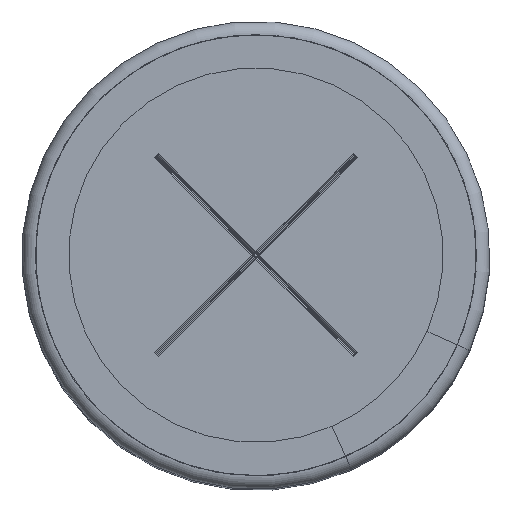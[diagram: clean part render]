
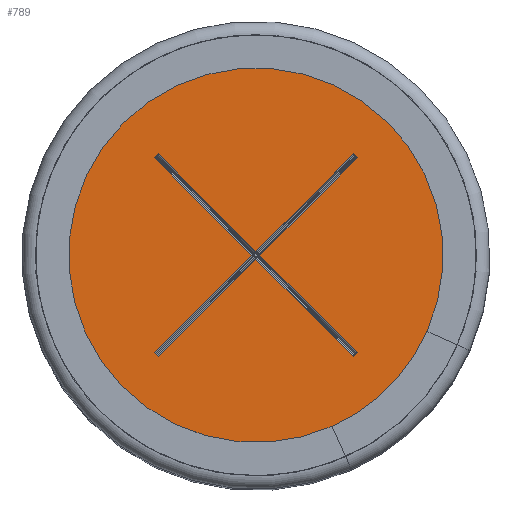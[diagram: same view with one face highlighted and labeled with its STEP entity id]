
A CAD part, top view. The second image highlights one B-rep face of the part: STEP entity #789.
In plain terms, the highlighted planar face has unit normal (0, 0, 1).
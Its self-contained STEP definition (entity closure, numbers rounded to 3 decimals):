
#174=FACE_BOUND('',#1270,.T.);
#175=FACE_BOUND('',#1271,.T.);
#673=PLANE('',#4033);
#789=ADVANCED_FACE('',(#174,#175),#673,.T.);
#1270=EDGE_LOOP('',(#2116));
#1271=EDGE_LOOP('',(#2117,#2118,#2119,#2120,#2121,#2122,#2123,#2124,#2125,
#2126,#2127,#2128));
#1503=LINE('',#5696,#1757);
#1504=LINE('',#5699,#1758);
#1505=LINE('',#5701,#1759);
#1506=LINE('',#5703,#1760);
#1507=LINE('',#5705,#1761);
#1508=LINE('',#5707,#1762);
#1509=LINE('',#5709,#1763);
#1510=LINE('',#5711,#1764);
#1511=LINE('',#5713,#1765);
#1512=LINE('',#5715,#1766);
#1513=LINE('',#5717,#1767);
#1514=LINE('',#5719,#1768);
#1757=VECTOR('',#4576,1.);
#1758=VECTOR('',#4577,1.);
#1759=VECTOR('',#4578,1.);
#1760=VECTOR('',#4579,1.);
#1761=VECTOR('',#4580,1.);
#1762=VECTOR('',#4581,1.);
#1763=VECTOR('',#4582,1.);
#1764=VECTOR('',#4583,1.);
#1765=VECTOR('',#4584,1.);
#1766=VECTOR('',#4585,1.);
#1767=VECTOR('',#4586,1.);
#1768=VECTOR('',#4587,1.);
#2116=ORIENTED_EDGE('',*,*,#3354,.F.);
#2117=ORIENTED_EDGE('',*,*,#3355,.T.);
#2118=ORIENTED_EDGE('',*,*,#3356,.T.);
#2119=ORIENTED_EDGE('',*,*,#3357,.T.);
#2120=ORIENTED_EDGE('',*,*,#3358,.F.);
#2121=ORIENTED_EDGE('',*,*,#3359,.T.);
#2122=ORIENTED_EDGE('',*,*,#3360,.T.);
#2123=ORIENTED_EDGE('',*,*,#3361,.F.);
#2124=ORIENTED_EDGE('',*,*,#3362,.T.);
#2125=ORIENTED_EDGE('',*,*,#3363,.T.);
#2126=ORIENTED_EDGE('',*,*,#3364,.T.);
#2127=ORIENTED_EDGE('',*,*,#3365,.T.);
#2128=ORIENTED_EDGE('',*,*,#3366,.T.);
#3024=VERTEX_POINT('',#5695);
#3025=VERTEX_POINT('',#5697);
#3026=VERTEX_POINT('',#5698);
#3027=VERTEX_POINT('',#5700);
#3028=VERTEX_POINT('',#5702);
#3029=VERTEX_POINT('',#5704);
#3030=VERTEX_POINT('',#5706);
#3031=VERTEX_POINT('',#5708);
#3032=VERTEX_POINT('',#5710);
#3033=VERTEX_POINT('',#5712);
#3034=VERTEX_POINT('',#5714);
#3035=VERTEX_POINT('',#5716);
#3036=VERTEX_POINT('',#5718);
#3354=EDGE_CURVE('',#3024,#3024,#3812,.T.);
#3355=EDGE_CURVE('',#3025,#3026,#1503,.T.);
#3356=EDGE_CURVE('',#3026,#3027,#1504,.T.);
#3357=EDGE_CURVE('',#3027,#3028,#1505,.T.);
#3358=EDGE_CURVE('',#3029,#3028,#1506,.T.);
#3359=EDGE_CURVE('',#3029,#3030,#1507,.T.);
#3360=EDGE_CURVE('',#3030,#3031,#1508,.T.);
#3361=EDGE_CURVE('',#3032,#3031,#1509,.T.);
#3362=EDGE_CURVE('',#3032,#3033,#1510,.T.);
#3363=EDGE_CURVE('',#3033,#3034,#1511,.T.);
#3364=EDGE_CURVE('',#3034,#3035,#1512,.T.);
#3365=EDGE_CURVE('',#3035,#3036,#1513,.T.);
#3366=EDGE_CURVE('',#3036,#3025,#1514,.T.);
#3812=CIRCLE('',#4032,16.5);
#4032=AXIS2_PLACEMENT_3D('',#5694,#4574,#4575);
#4033=AXIS2_PLACEMENT_3D('',#5720,#4588,#4589);
#4574=DIRECTION('',(0.,0.,-1.));
#4575=DIRECTION('',(-1.,0.,0.));
#4576=DIRECTION('',(0.707,-0.707,0.));
#4577=DIRECTION('',(-0.707,-0.707,0.));
#4578=DIRECTION('',(0.707,-0.707,0.));
#4579=DIRECTION('',(0.707,0.707,0.));
#4580=DIRECTION('',(-0.707,0.707,0.));
#4581=DIRECTION('',(-0.707,-0.707,0.));
#4582=DIRECTION('',(0.707,-0.707,0.));
#4583=DIRECTION('',(0.707,0.707,0.));
#4584=DIRECTION('',(-0.707,0.707,0.));
#4585=DIRECTION('',(0.707,0.707,0.));
#4586=DIRECTION('',(0.707,-0.707,0.));
#4587=DIRECTION('',(0.707,0.707,0.));
#4588=DIRECTION('',(0.,0.,1.));
#4589=DIRECTION('',(1.,0.,0.));
#5694=CARTESIAN_POINT('',(0.,0.,57.8));
#5695=CARTESIAN_POINT('',(-16.5,0.,57.8));
#5696=CARTESIAN_POINT('',(7.319,7.531,57.8));
#5697=CARTESIAN_POINT('',(7.275,7.574,57.8));
#5698=CARTESIAN_POINT('',(7.574,7.275,57.8));
#5699=CARTESIAN_POINT('',(-8.1,-8.4,57.8));
#5700=CARTESIAN_POINT('',(0.3,0.,57.8));
#5701=CARTESIAN_POINT('',(-8.1,8.4,57.8));
#5702=CARTESIAN_POINT('',(7.574,-7.275,57.8));
#5703=CARTESIAN_POINT('',(7.531,-7.319,57.8));
#5704=CARTESIAN_POINT('',(7.275,-7.574,57.8));
#5705=CARTESIAN_POINT('',(-8.4,8.1,57.8));
#5706=CARTESIAN_POINT('',(0.,-0.3,57.8));
#5707=CARTESIAN_POINT('',(-8.1,-8.4,57.8));
#5708=CARTESIAN_POINT('',(-7.275,-7.574,57.8));
#5709=CARTESIAN_POINT('',(-7.531,-7.319,57.8));
#5710=CARTESIAN_POINT('',(-7.574,-7.275,57.8));
#5711=CARTESIAN_POINT('',(-8.4,-8.1,57.8));
#5712=CARTESIAN_POINT('',(-0.3,0.,57.8));
#5713=CARTESIAN_POINT('',(-8.4,8.1,57.8));
#5714=CARTESIAN_POINT('',(-7.574,7.275,57.8));
#5715=CARTESIAN_POINT('',(-7.319,7.531,57.8));
#5716=CARTESIAN_POINT('',(-7.275,7.574,57.8));
#5717=CARTESIAN_POINT('',(-8.1,8.4,57.8));
#5718=CARTESIAN_POINT('',(0.,0.3,57.8));
#5719=CARTESIAN_POINT('',(-8.4,-8.1,57.8));
#5720=CARTESIAN_POINT('',(-16.5,0.,57.8));
